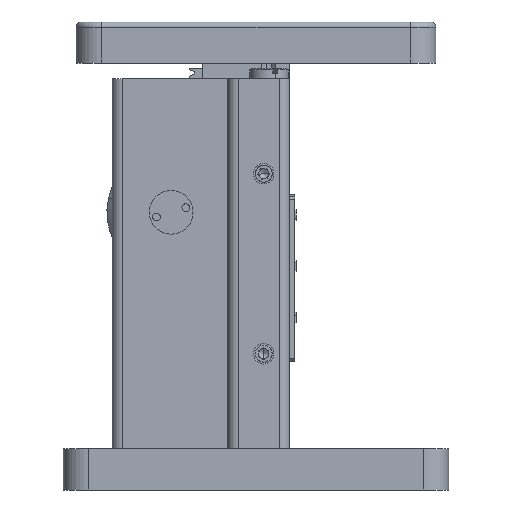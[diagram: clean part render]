
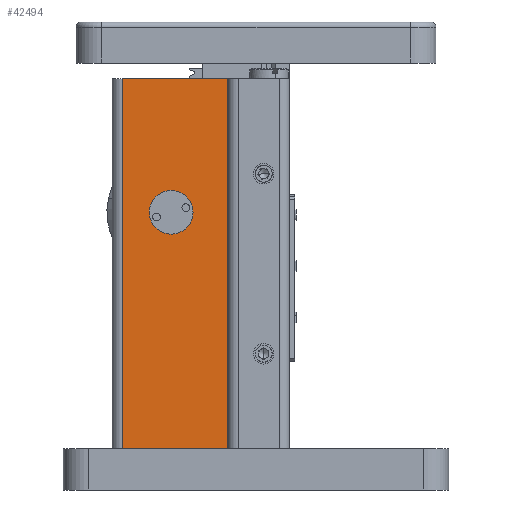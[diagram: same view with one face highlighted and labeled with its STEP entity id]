
A CAD part, left-side view. The second image highlights one B-rep face of the part: STEP entity #42494.
In plain terms, the highlighted planar face has unit normal (-1, 0, 0).
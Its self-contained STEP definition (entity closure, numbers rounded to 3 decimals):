
#2233 = CARTESIAN_POINT ( 'NONE',  ( -24.569, 7.442, 4. ) ) ;
#2395 = DIRECTION ( 'NONE',  ( 0., 0., 1. ) ) ;
#3476 = AXIS2_PLACEMENT_3D ( 'NONE', #47487, #30695, #26505 ) ;
#3741 = LINE ( 'NONE', #19306, #27825 ) ;
#5432 = AXIS2_PLACEMENT_3D ( 'NONE', #2233, #23519, #27690 ) ;
#8024 = CIRCLE ( 'NONE', #27428, 4.25 ) ;
#9577 = CARTESIAN_POINT ( 'NONE',  ( -24.569, 7.442, 4. ) ) ;
#10629 = ORIENTED_EDGE ( 'NONE', *, *, #32195, .F. ) ;
#10937 = DIRECTION ( 'NONE',  ( 0., 1., 0. ) ) ;
#13409 = DIRECTION ( 'NONE',  ( 0., -1., 0. ) ) ;
#14734 = DIRECTION ( 'NONE',  ( -1., 0., 0. ) ) ;
#15266 = CARTESIAN_POINT ( 'NONE',  ( -24.569, 13.192, 50. ) ) ;
#15743 = VERTEX_POINT ( 'NONE', #25130 ) ;
#16496 = ORIENTED_EDGE ( 'NONE', *, *, #35749, .T. ) ;
#17365 = VERTEX_POINT ( 'NONE', #49672 ) ;
#17763 = EDGE_CURVE ( 'NONE', #29179, #30713, #49946, .T. ) ;
#19306 = CARTESIAN_POINT ( 'NONE',  ( -24.569, 2.192, 4. ) ) ;
#19536 = CARTESIAN_POINT ( 'NONE',  ( -24.569, 7.442, 76. ) ) ;
#19699 = VECTOR ( 'NONE', #23722, 1000. ) ;
#20724 = DIRECTION ( 'NONE',  ( 0., 0., -1. ) ) ;
#21560 = ORIENTED_EDGE ( 'NONE', *, *, #17763, .T. ) ;
#22151 = EDGE_CURVE ( 'NONE', #17365, #15743, #43683, .T. ) ;
#23519 = DIRECTION ( 'NONE',  ( -1., 0., 0. ) ) ;
#23722 = DIRECTION ( 'NONE',  ( 0., -1., 0. ) ) ;
#24427 = EDGE_LOOP ( 'NONE', ( #29836, #52387 ) ) ;
#25031 = CARTESIAN_POINT ( 'NONE',  ( -24.569, 22.692, 4. ) ) ;
#25130 = CARTESIAN_POINT ( 'NONE',  ( -24.569, 17.442, 50. ) ) ;
#26505 = DIRECTION ( 'NONE',  ( 0., 1., 0. ) ) ;
#27145 = PLANE ( 'NONE',  #5432 ) ;
#27428 = AXIS2_PLACEMENT_3D ( 'NONE', #15266, #14734, #10937 ) ;
#27690 = DIRECTION ( 'NONE',  ( 0., 1., 0. ) ) ;
#27825 = VECTOR ( 'NONE', #2395, 1000. ) ;
#28291 = VERTEX_POINT ( 'NONE', #41555 ) ;
#28341 = FACE_OUTER_BOUND ( 'NONE', #40267, .T. ) ;
#29179 = VERTEX_POINT ( 'NONE', #52924 ) ;
#29836 = ORIENTED_EDGE ( 'NONE', *, *, #42868, .F. ) ;
#30536 = CARTESIAN_POINT ( 'NONE',  ( -24.569, 22.692, 4. ) ) ;
#30695 = DIRECTION ( 'NONE',  ( -1., 0., 0. ) ) ;
#30713 = VERTEX_POINT ( 'NONE', #30536 ) ;
#32195 = EDGE_CURVE ( 'NONE', #29179, #28291, #34685, .T. ) ;
#34685 = LINE ( 'NONE', #19536, #19699 ) ;
#35749 = EDGE_CURVE ( 'NONE', #38438, #28291, #3741, .T. ) ;
#38438 = VERTEX_POINT ( 'NONE', #45367 ) ;
#39164 = EDGE_CURVE ( 'NONE', #30713, #38438, #44424, .T. ) ;
#39616 = ORIENTED_EDGE ( 'NONE', *, *, #39164, .T. ) ;
#40202 = VECTOR ( 'NONE', #20724, 1000. ) ;
#40267 = EDGE_LOOP ( 'NONE', ( #10629, #21560, #39616, #16496 ) ) ;
#41555 = CARTESIAN_POINT ( 'NONE',  ( -24.569, 2.192, 76. ) ) ;
#42494 = ADVANCED_FACE ( 'NONE', ( #45301, #28341 ), #27145, .T. ) ;
#42868 = EDGE_CURVE ( 'NONE', #15743, #17365, #8024, .T. ) ;
#43683 = CIRCLE ( 'NONE', #3476, 4.25 ) ;
#44424 = LINE ( 'NONE', #9577, #50913 ) ;
#45301 = FACE_BOUND ( 'NONE', #24427, .T. ) ;
#45367 = CARTESIAN_POINT ( 'NONE',  ( -24.569, 2.192, 4. ) ) ;
#47487 = CARTESIAN_POINT ( 'NONE',  ( -24.569, 13.192, 50. ) ) ;
#49672 = CARTESIAN_POINT ( 'NONE',  ( -24.569, 8.942, 50. ) ) ;
#49946 = LINE ( 'NONE', #25031, #40202 ) ;
#50913 = VECTOR ( 'NONE', #13409, 1000. ) ;
#52387 = ORIENTED_EDGE ( 'NONE', *, *, #22151, .F. ) ;
#52924 = CARTESIAN_POINT ( 'NONE',  ( -24.569, 22.692, 76. ) ) ;
